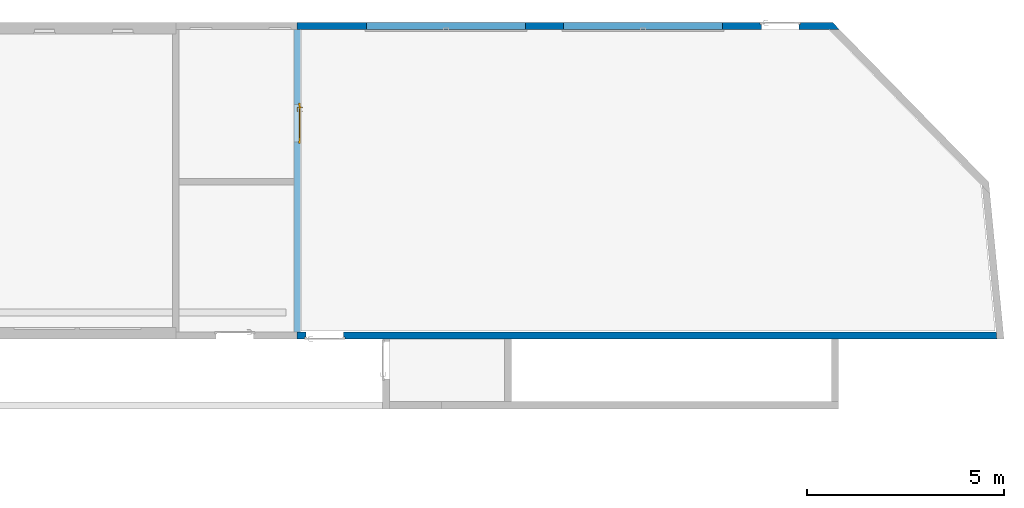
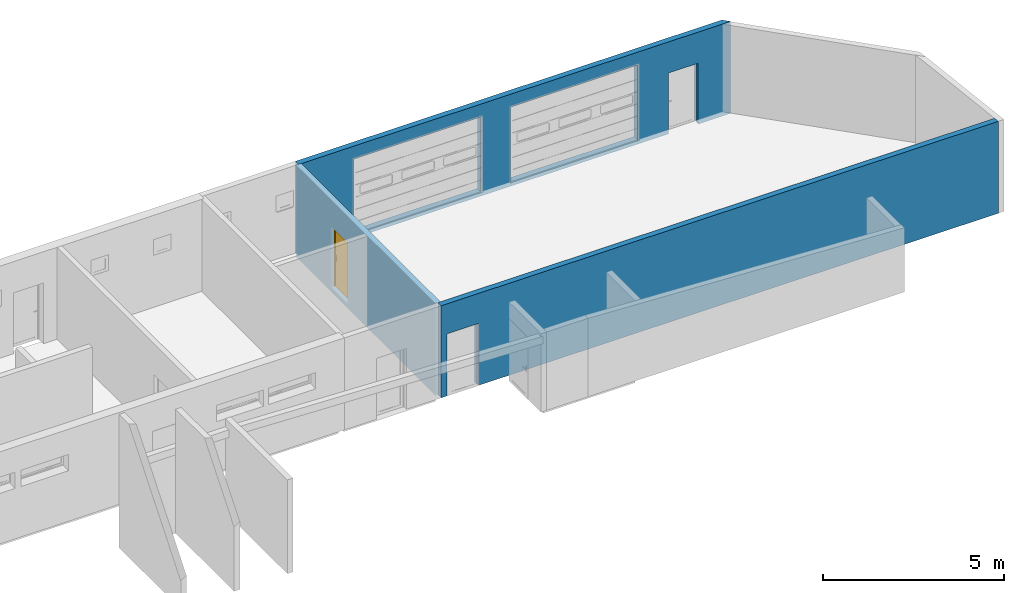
# One storey, part 7 of 9: 2 walls, 1 door, 1 opening, plus 1 element that does not belong to this part.
"""IFC2X3 building model written with IfcOpenShell, lengths in metres."""

from ifc_helpers import new_model, entity, si_unit, converted_unit, derived_unit, direction, frame, frame_2d, origin, place, context, subcontext, project, spatial, polyline, rectangle, extrude, clip, bounded_halfspace, faceted_brep, source, transform, mapped, material, layer, layer_set, layer_usage, type_object, type_shapes, element, fill, save


model = new_model("IFC2X3")

# Units and contexts
model_context = context("Model", 3, precision=1e-05, world=origin(), true_north=direction((6.12303176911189e-17, 1.0)))
body_context = subcontext(model_context, "Body", "Model", "MODEL_VIEW")
ifc_project = project(units=[si_unit("LENGTHUNIT", "METRE"), si_unit("AREAUNIT", "SQUARE_METRE"), si_unit("VOLUMEUNIT", "CUBIC_METRE"), converted_unit("PLANEANGLEUNIT", "DEGREE", entity("IfcRatioMeasure", 0.0174532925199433), si_unit("PLANEANGLEUNIT", "RADIAN"), dimensions=[0, 0, 0, 0, 0, 0, 0]), si_unit("MASSUNIT", "GRAM", prefix="KILO"), derived_unit("MASSDENSITYUNIT", [(si_unit("MASSUNIT", "GRAM", prefix="KILO"), 1), (si_unit("LENGTHUNIT", "METRE"), -3)]), si_unit("TIMEUNIT", "SECOND"), si_unit("FREQUENCYUNIT", "HERTZ"), si_unit("THERMODYNAMICTEMPERATUREUNIT", "DEGREE_CELSIUS"), derived_unit("THERMALTRANSMITTANCEUNIT", [(si_unit("MASSUNIT", "GRAM", prefix="KILO"), 1), (si_unit("THERMODYNAMICTEMPERATUREUNIT", "KELVIN"), -1), (si_unit("TIMEUNIT", "SECOND"), -3)]), derived_unit("VOLUMETRICFLOWRATEUNIT", [(si_unit("LENGTHUNIT", "METRE"), 3), (si_unit("TIMEUNIT", "SECOND"), -1)]), si_unit("ELECTRICCURRENTUNIT", "AMPERE"), si_unit("ELECTRICVOLTAGEUNIT", "VOLT"), si_unit("POWERUNIT", "WATT"), si_unit("FORCEUNIT", "NEWTON", prefix="KILO"), si_unit("ILLUMINANCEUNIT", "LUX"), si_unit("LUMINOUSFLUXUNIT", "LUMEN"), si_unit("LUMINOUSINTENSITYUNIT", "CANDELA"), derived_unit("USERDEFINED", [(si_unit("MASSUNIT", "GRAM", prefix="KILO"), -1), (si_unit("LENGTHUNIT", "METRE"), -2), (si_unit("TIMEUNIT", "SECOND"), 3), (si_unit("LUMINOUSFLUXUNIT", "LUMEN"), 1)]), derived_unit("LINEARVELOCITYUNIT", [(si_unit("LENGTHUNIT", "METRE"), 1), (si_unit("TIMEUNIT", "SECOND"), -1)]), si_unit("PRESSUREUNIT", "PASCAL"), derived_unit("USERDEFINED", [(si_unit("LENGTHUNIT", "METRE"), -2), (si_unit("MASSUNIT", "GRAM", prefix="KILO"), 1), (si_unit("TIMEUNIT", "SECOND"), -2)])], contexts=[model_context])

# Site, building, storey
site_placement = place(None, origin())
site = spatial("IfcSite", under=ifc_project, at=site_placement, Name="Default", CompositionType="ELEMENT")
building_placement = place(site_placement, origin())
building = spatial("IfcBuilding", under=site, at=building_placement, CompositionType="ELEMENT")
storey_placement = place(building_placement, origin())
storey = spatial("IfcBuildingStorey", under=building, at=storey_placement, Name="Niveau 0", CompositionType="ELEMENT", Elevation=-1.94916083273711e-14)

# Walls
ifc_material_1 = material(Name="Maçonnerie - Voile BA")
wall_type_1 = type_object("IfcWallType", Name="Mur de base:Ext. Voile BA 18", PredefinedType="NOTDEFINED")
wall_1_placement = place(storey_placement, frame((6.36053863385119, 2.91911858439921, 0.0)))
element("IfcWall", 1, at=wall_1_placement, inside=storey, type_object=wall_type_1, material=ifc_material_1, Name="Mur de base:Ext. Voile BA 18", ObjectType="Mur de base:Ext. Voile BA 18", context=body_context, shape_type="Brep", body=[
    faceted_brep([(0.0, -0.0900000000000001, 3.10000000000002), (0.0, -0.0900000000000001, 0.0), (0.0800000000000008, -0.0900000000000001, 0.0), (11.785, -0.0900000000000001, 0.0), (11.785, -0.0900000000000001, 2.05000000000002), (12.735, -0.0900000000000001, 2.05000000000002), (12.735, -0.0900000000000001, 0.0), (13.5139204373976, -0.0900000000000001, 0.0), (13.7656595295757, -0.0900000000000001, 0.0), (13.7656595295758, -0.0900000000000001, 3.09252723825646), (13.7656595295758, -0.0900000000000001, 3.10000000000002), (6.23994695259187, -0.0900000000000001, 3.10000000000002), (0.0800000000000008, -0.0900000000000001, 3.10000000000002), (1.765, -0.0900000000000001, 2.66500000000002), (5.79499999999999, -0.0900000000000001, 2.66500000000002), (5.79499999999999, -0.0900000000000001, 0.15), (1.765, -0.0900000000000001, 0.15), (6.76500000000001, -0.0900000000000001, 2.66500000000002), (10.795, -0.0900000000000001, 2.66500000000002), (10.795, -0.0900000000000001, 0.15), (6.76500000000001, -0.0900000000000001, 0.15), (0.0, 0.0900000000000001, 0.0), (0.0, 0.0900000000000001, 3.10000000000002), (6.23994695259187, 0.0900000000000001, 3.10000000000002), (13.589669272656, 0.0900000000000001, 3.10000000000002), (13.589669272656, 0.0900000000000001, 0.0), (12.775, 0.0900000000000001, 0.0), (12.775, 0.0900000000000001, 2.09000000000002), (11.745, 0.0900000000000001, 2.09000000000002), (11.745, 0.0900000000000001, 0.0), (5.79499999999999, 0.0900000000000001, 2.66500000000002), (1.765, 0.0900000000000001, 2.66500000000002), (1.765, 0.0900000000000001, 0.15), (5.79499999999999, 0.0900000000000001, 0.15), (10.795, 0.0900000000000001, 2.66500000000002), (6.765, 0.0900000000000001, 2.66500000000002), (6.765, 0.0900000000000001, 0.15), (10.795, 0.0900000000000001, 0.15), (11.745, 0.0400000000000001, 0.0), (11.785, 0.0400000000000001, 0.0), (11.785, 0.0400000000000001, 2.05000000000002), (12.735, 0.0400000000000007, 2.05000000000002), (12.735, 0.0400000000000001, 0.0), (11.745, 0.0400000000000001, 2.09000000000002), (12.775, 0.0400000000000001, 2.09000000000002), (12.775, 0.0400000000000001, 0.0)], [[[0, 1, 2, 3, 4, 5, 6, 7, 8, 9, 10, 11, 12], [13, 14, 15, 16], [17, 18, 19, 20]], [[21, 22, 23, 24, 25, 26, 27, 28, 29], [30, 31, 32, 33], [34, 35, 36, 37]], [[1, 21, 29, 38, 39, 3, 2]], [[1, 0, 22, 21]], [[10, 9, 8, 25, 24]], [[30, 14, 13, 31]], [[32, 16, 15, 33]], [[16, 32, 31, 13]], [[33, 15, 14, 30]], [[34, 18, 17, 35]], [[36, 20, 19, 37]], [[35, 17, 20, 36]], [[18, 34, 37, 19]], [[40, 41, 5, 4]], [[39, 40, 4, 3]], [[41, 42, 6, 5]], [[28, 43, 38, 29]], [[41, 40, 39, 38, 43, 44, 45, 42]], [[43, 28, 27, 44]], [[45, 44, 27, 26]], [[10, 24, 23, 11]], [[0, 12, 11, 23, 22]], [[25, 8, 7, 6, 42, 45, 26]]]),
])
wall_2_placement = place(storey_placement, frame((24.1232981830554, -4.9408814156, 0.0), z_axis=(0.0, 0.0, 1.0), x_axis=(-1.0, 0.0, 0.0)))
element("IfcWall", 2, at=wall_2_placement, inside=storey, type_object=wall_type_1, Name="Mur de base:Ext. Voile BA 18", ObjectType="Mur de base:Ext. Voile BA 18", context=body_context, shape_type="Brep", body=[
    faceted_brep([(17.7627595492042, -0.0899999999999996, 0.0), (17.7627595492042, -0.0899999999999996, 3.10000000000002), (17.6827595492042, -0.089999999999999, 3.10000000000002), (11.5228125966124, -0.0899999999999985, 3.10000000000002), (0.0175174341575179, -0.0899999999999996, 3.10000000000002), (0.0175174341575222, -0.0899999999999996, 0.0), (16.5877595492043, -0.089999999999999, 0.0), (16.5877595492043, -0.089999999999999, 2.05000000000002), (17.5377595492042, -0.0899999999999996, 2.05000000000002), (17.5377595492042, -0.0899999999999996, 0.0), (17.6827595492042, -0.089999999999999, 0.0), (17.7627595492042, 0.0900000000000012, 3.10000000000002), (17.7627595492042, 0.0900000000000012, 0.0), (17.5777595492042, 0.0900000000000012, 0.0), (17.5777595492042, 0.0900000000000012, 2.09000000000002), (16.5477595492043, 0.0900000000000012, 2.09000000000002), (16.5477595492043, 0.0900000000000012, 0.0), (0.0, 0.0900000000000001, 0.0), (0.0, 0.0900000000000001, 3.09918100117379), (0.0, 0.0900000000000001, 3.10000000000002), (11.5228125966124, 0.0900000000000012, 3.10000000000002), (16.5477595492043, 0.0400000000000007, 0.0), (16.5877595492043, 0.0400000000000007, 0.0), (17.7627595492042, 0.0850000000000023, 3.10000000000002), (0.000486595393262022, 0.0850000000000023, 3.10000000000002), (16.5877595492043, 0.0400000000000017, 2.05000000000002), (17.5377595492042, 0.0400000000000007, 2.05000000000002), (17.5377595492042, 0.0400000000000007, 0.0), (17.5777595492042, 0.0400000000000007, 0.0), (17.5777595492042, 0.0400000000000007, 2.09000000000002), (16.5477595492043, 0.0400000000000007, 2.09000000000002), (11.5228125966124, 0.0850000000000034, 3.10000000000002)], [[[0, 1, 2, 3, 4, 5, 6, 7, 8, 9, 10]], [[11, 12, 13, 14, 15, 16, 17, 18, 19, 20]], [[5, 17, 16, 21, 22, 6]], [[1, 0, 12, 11, 23]], [[5, 4, 24, 19, 18, 17]], [[25, 26, 8, 7]], [[26, 27, 9, 8]], [[22, 25, 7, 6]], [[28, 29, 14, 13]], [[26, 25, 22, 21, 30, 29, 28, 27]], [[14, 29, 30, 15]], [[30, 21, 16, 15]], [[11, 20, 31, 23]], [[4, 3, 31, 24]], [[20, 19, 24, 31]], [[3, 2, 1, 23, 31]], [[12, 0, 10, 9, 27, 28, 13]]]),
])

# Wall, opening, door
ifc_layer = layer(ifc_material_1, 0.16)
ifc_layer_set = layer_set([ifc_layer], Name="Mur de base:Refend. Voile BA 16")
ifc_layer_usage = layer_usage(ifc_layer_set, "AXIS2", "NEGATIVE", 0.08)
wall_type_2 = type_object("IfcWallType", Name="Mur de base:Refend. Voile BA 16", PredefinedType="STANDARD", material=ifc_layer_set)
wall_3_placement = place(storey_placement, frame((6.36053863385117, -4.85088141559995, 0.0), z_axis=(0.0, 0.0, 1.0), x_axis=(0.0, 1.0, 0.0)))
wall_3 = element("IfcWallStandardCase", 3, at=wall_3_placement, inside=storey, type_object=wall_type_2, material=ifc_layer_usage, Name="Mur de base:Refend. Voile BA 16", ObjectType="Mur de base:Refend. Voile BA 16", context=body_context, shape_type="Clipping", body=[
    clip(extrude(rectangle(XDim=7.67999999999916, YDim=0.16, at=frame_2d((3.83999999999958, 0.0), x_axis=(-1.0, 0.0))), origin(), (0.0, 0.0, 1.0), 3.10000000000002), bounded_halfspace(frame((0.0, -0.0800000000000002, 3.10000000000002), z_axis=(0.0, 0.0, -1.0), x_axis=(0.0, -1.0, 0.0)), True, frame((0.0, -0.0800000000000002, 3.10000000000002)), polyline([(0.0, 0.0), (7.67999999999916, 0.0), (7.67999999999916, 0.0800000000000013), (7.67999999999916, 0.16), (3.89645382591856, 0.16), (3.73645382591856, 0.160000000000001), (0.0, 0.16), (0.0, 0.0800000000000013), (0.0, 0.0)]))),
])
opening_placement = place(wall_3_placement, frame((4.78145382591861, 0.380000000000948, 0.15), z_axis=(0.0, 0.0, 1.0), x_axis=(0.0, -1.0, 0.0)))
opening = element("IfcOpeningElement", 4, at=opening_placement, cuts=wall_3, Name="Mur de base:Refend. Voile BA 16", ObjectType="Opening", context=body_context, shape_type="Brep", body=[
    faceted_brep([(0.0, 0.98999999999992, 2.05000000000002), (0.0, 0.0400000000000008, 2.05000000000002), (0.410000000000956, 0.0400000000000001, 2.05000000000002), (0.410000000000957, 0.989999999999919, 2.05000000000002), (0.0, 0.0400000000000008, 0.0), (0.0, 0.98999999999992, 0.0), (0.410000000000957, 0.989999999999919, 0.0), (0.410000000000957, 1.02999999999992, 0.0), (0.460000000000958, 1.02999999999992, 0.0), (0.460000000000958, 0.989999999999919, 0.0), (0.760000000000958, 0.989999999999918, 0.0), (0.760000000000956, 0.0399999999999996, 0.0), (0.460000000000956, 0.0399999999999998, 0.0), (0.460000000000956, 0.0, 0.0), (0.410000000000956, 0.0, 0.0), (0.410000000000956, 0.04, 0.0), (0.760000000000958, 0.989999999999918, 2.05000000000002), (0.760000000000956, 0.0399999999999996, 2.05000000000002), (0.460000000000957, 1.02999999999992, 2.09000000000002), (0.460000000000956, 0.0, 2.09000000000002), (0.460000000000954, 0.0400000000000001, 2.05000000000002), (0.460000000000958, 0.989999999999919, 2.05000000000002), (0.410000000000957, 1.02999999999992, 2.09000000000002), (0.410000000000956, 0.0, 2.09000000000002)], [[[0, 1, 2, 3]], [[4, 5, 6, 7, 8, 9, 10, 11, 12, 13, 14, 15]], [[1, 0, 5, 4]], [[5, 0, 3, 6]], [[16, 17, 11, 10]], [[1, 4, 15, 2]], [[9, 8, 18, 19, 13, 12, 20, 21]], [[8, 7, 22, 18]], [[7, 6, 3, 2, 15, 14, 23, 22]], [[19, 18, 22, 23]], [[13, 19, 23, 14]], [[11, 17, 20, 12]], [[16, 10, 9, 21]], [[17, 16, 21, 20]]]),
])
ifc_material_2 = material(Name="PVC - Blanc")
door_style = type_object("IfcDoorStyle", Name="0.93 x 2.04", ConstructionType="NOTDEFINED", OperationType="SINGLE_SWING_LEFT", ParameterTakesPrecedence=False, Sizeable=False, material=ifc_material_2)
shared_shape = source(origin(), body_context, "Body", "Brep", [
    faceted_brep([(0.927025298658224, -0.27258714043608, 1.00778044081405), (0.922974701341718, -0.27258714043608, 1.00778044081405), (0.918999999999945, -0.27258714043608, 1.00699999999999), (0.918999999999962, -0.27258714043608, 0.993000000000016), (0.922974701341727, -0.27258714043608, 0.992219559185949), (0.927025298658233, -0.27258714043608, 0.992219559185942), (0.930999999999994, -0.27258714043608, 0.992999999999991), (0.93099999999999, -0.27258714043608, 1.00699999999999), (0.918999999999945, -0.250101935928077, 1.00699999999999), (0.918999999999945, -0.25010193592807, 0.993000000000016), (0.922974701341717, -0.248455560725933, 1.00778044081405), (0.927025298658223, -0.246777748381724, 1.00778044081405), (0.910838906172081, -0.230591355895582, 1.00778044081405), (0.909161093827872, -0.234641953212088, 1.00778044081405), (0.825793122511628, -0.234641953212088, 1.00778044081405), (0.824115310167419, -0.230591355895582, 1.00778044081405), (0.81645104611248, -0.238255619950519, 1.00778044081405), (0.819315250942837, -0.241119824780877, 1.00778044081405), (0.93099999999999, -0.245131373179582, 1.00699999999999), (0.930999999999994, -0.24513137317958, 0.992999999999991), (0.927025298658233, -0.24677774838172, 0.992219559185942), (0.922974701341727, -0.248455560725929, 0.992219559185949), (0.909161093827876, -0.234641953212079, 0.992219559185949), (0.910838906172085, -0.230591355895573, 0.992219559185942), (0.824115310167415, -0.230591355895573, 0.992219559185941), (0.825793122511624, -0.234641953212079, 0.992219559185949), (0.819315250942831, -0.241119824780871, 0.992219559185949), (0.816451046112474, -0.238255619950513, 0.992219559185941), (0.907514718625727, -0.23861665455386, 1.00699999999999), (0.907514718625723, -0.238616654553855, 0.993000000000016), (0.912485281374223, -0.226616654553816, 1.00699999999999), (0.912485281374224, -0.226616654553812, 0.992999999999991), (0.86747710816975, -0.238616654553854, 1.00699999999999), (0.827439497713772, -0.23861665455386, 1.00699999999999), (0.827439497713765, -0.23861665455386, 0.993000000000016), (0.86747710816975, -0.238616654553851, 0.993000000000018), (0.867477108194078, -0.232462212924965, 1.00787811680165), (0.862399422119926, -0.226616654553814, 1.00699999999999), (0.822468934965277, -0.226616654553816, 1.00699999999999), (0.872554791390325, -0.226616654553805, 0.992999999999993), (0.822468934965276, -0.226616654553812, 0.992999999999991), (0.86747710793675, -0.232462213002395, 0.992121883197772), (0.813640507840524, -0.235445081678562, 1.00699999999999), (0.813640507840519, -0.235445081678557, 0.992999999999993), (0.822125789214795, -0.243930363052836, 0.993000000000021), (0.822125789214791, -0.243930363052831, 1.00699999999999)], [[[0, 1, 2, 3, 4, 5, 6, 7]], [[8, 9, 3, 2]], [[1, 10, 8, 2]], [[1, 0, 11, 12, 13, 10]], [[14, 15, 16, 17]], [[7, 18, 11, 0]], [[18, 7, 6, 19]], [[6, 5, 20, 19]], [[5, 4, 21, 22, 23, 20]], [[24, 25, 26, 27]], [[4, 3, 9, 21]], [[28, 29, 9, 8]], [[8, 10, 13, 28]], [[18, 30, 12, 11]], [[31, 30, 18, 19]], [[19, 20, 23, 31]], [[21, 9, 29, 22]], [[29, 28, 32, 33, 34, 35]], [[36, 32, 13]], [[37, 38, 15]], [[37, 12, 30]], [[36, 12, 37]], [[14, 32, 36]], [[36, 15, 14]], [[28, 13, 32]], [[32, 14, 33]], [[12, 36, 13]], [[15, 36, 37]], [[30, 31, 39, 40, 38, 37]], [[23, 41, 39]], [[24, 39, 41]], [[39, 31, 23]], [[39, 24, 40]], [[22, 35, 41]], [[41, 23, 22]], [[41, 35, 25]], [[35, 22, 29]], [[34, 25, 35]], [[24, 41, 25]], [[17, 16, 42, 43, 27, 26, 44, 45]], [[45, 44, 34, 33]], [[33, 14, 17, 45]], [[15, 38, 42, 16]], [[43, 42, 38, 40]], [[24, 27, 43, 40]], [[34, 44, 26, 25]]]),
    faceted_brep([(0.922974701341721, -0.32258714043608, 1.00778044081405), (0.927025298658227, -0.32258714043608, 1.00778044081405), (0.930999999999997, -0.32258714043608, 1.00699999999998), (0.931000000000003, -0.32258714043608, 0.992999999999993), (0.927025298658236, -0.32258714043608, 0.992219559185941), (0.922974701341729, -0.32258714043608, 0.992219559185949), (0.918999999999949, -0.32258714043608, 0.993000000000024), (0.918999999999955, -0.32258714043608, 1.00699999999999), (0.927025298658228, -0.348591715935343, 1.00778044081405), (0.930999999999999, -0.350238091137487, 1.00699999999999), (0.922974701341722, -0.346913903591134, 1.00778044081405), (0.909298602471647, -0.360590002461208, 1.00778044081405), (0.910976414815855, -0.364640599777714, 1.00778044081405), (0.824142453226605, -0.364640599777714, 1.00778044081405), (0.825820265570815, -0.360590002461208, 1.00778044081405), (0.819342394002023, -0.354112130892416, 1.00778044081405), (0.816478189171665, -0.356976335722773, 1.00778044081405), (0.918999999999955, -0.345267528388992, 1.00699999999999), (0.918999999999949, -0.34526752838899, 0.993000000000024), (0.922974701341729, -0.346913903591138, 0.992219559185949), (0.927025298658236, -0.348591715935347, 0.992219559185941), (0.910976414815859, -0.364640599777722, 0.992219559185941), (0.90929860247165, -0.360590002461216, 0.992219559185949), (0.825820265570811, -0.360590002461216, 0.992219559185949), (0.824142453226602, -0.364640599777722, 0.992219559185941), (0.81647818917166, -0.356976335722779, 0.992219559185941), (0.819342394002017, -0.354112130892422, 0.992219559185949), (0.931000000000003, -0.35023809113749, 0.992999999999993), (0.912622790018, -0.368615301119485, 1.00699999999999), (0.907652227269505, -0.356615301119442, 1.00699999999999), (0.907652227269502, -0.356615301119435, 0.993000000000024), (0.912622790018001, -0.36861530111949, 0.992999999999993), (0.86755943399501, -0.362769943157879, 1.00787811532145), (0.87269230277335, -0.368615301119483, 1.00699999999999), (0.822496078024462, -0.368615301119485, 1.00699999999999), (0.867559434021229, -0.356615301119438, 1.00699999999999), (0.827466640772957, -0.356615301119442, 1.00699999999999), (0.867559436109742, -0.356615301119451, 0.993000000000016), (0.82746664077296, -0.356615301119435, 0.993000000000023), (0.867559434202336, -0.362769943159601, 0.992121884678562), (0.862426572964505, -0.368615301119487, 0.992999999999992), (0.822496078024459, -0.36861530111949, 0.992999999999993), (0.822152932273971, -0.351301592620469, 0.993000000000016), (0.813667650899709, -0.359786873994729, 0.992999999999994), (0.813667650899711, -0.359786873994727, 1.00699999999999), (0.822152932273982, -0.351301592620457, 1.00699999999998)], [[[0, 1, 2, 3, 4, 5, 6, 7]], [[2, 1, 8, 9]], [[1, 0, 10, 11, 12, 8]], [[13, 14, 15, 16]], [[0, 7, 17, 10]], [[18, 17, 7, 6]], [[5, 19, 18, 6]], [[5, 4, 20, 21, 22, 19]], [[23, 24, 25, 26]], [[3, 27, 20, 4]], [[9, 27, 3, 2]], [[9, 8, 12, 28]], [[10, 17, 29, 11]], [[30, 29, 17, 18]], [[18, 19, 22, 30]], [[20, 27, 31, 21]], [[28, 31, 27, 9]], [[12, 32, 33]], [[13, 33, 32]], [[33, 28, 12]], [[33, 13, 34]], [[11, 35, 32]], [[32, 12, 11]], [[32, 35, 14]], [[35, 11, 29]], [[36, 14, 35]], [[13, 32, 14]], [[29, 30, 37, 38, 36, 35]], [[39, 37, 22]], [[40, 41, 24]], [[40, 21, 31]], [[39, 21, 40]], [[23, 37, 39]], [[39, 24, 23]], [[30, 22, 37]], [[37, 23, 38]], [[21, 39, 22]], [[24, 39, 40]], [[31, 28, 33, 34, 41, 40]], [[42, 26, 25, 43, 44, 16, 15, 45]], [[13, 16, 44, 34]], [[36, 45, 15, 14]], [[42, 45, 36, 38]], [[38, 23, 26, 42]], [[24, 41, 43, 25]], [[44, 43, 41, 34]]]),
    faceted_brep([(0.924999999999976, -0.27758714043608, 0.864641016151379), (0.935352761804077, -0.27758714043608, 0.866003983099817), (0.944999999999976, -0.27758714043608, 0.870000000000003), (0.944999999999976, -0.27758714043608, 1.08), (0.935352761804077, -0.27758714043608, 1.08399601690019), (0.924999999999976, -0.27758714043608, 1.08535898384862), (0.914647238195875, -0.27758714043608, 1.08399601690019), (0.904999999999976, -0.27758714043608, 1.08), (0.904999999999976, -0.27758714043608, 0.870000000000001), (0.914647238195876, -0.27758714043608, 0.866003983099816), (0.924999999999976, -0.27258714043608, 1.08535898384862), (0.935352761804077, -0.27258714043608, 1.08399601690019), (0.944999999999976, -0.27258714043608, 1.08), (0.944999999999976, -0.27258714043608, 0.870000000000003), (0.935352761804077, -0.27258714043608, 0.866003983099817), (0.924999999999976, -0.27258714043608, 0.864641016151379), (0.914647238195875, -0.27258714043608, 0.866003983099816), (0.904999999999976, -0.27258714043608, 0.870000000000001), (0.904999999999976, -0.27258714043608, 1.08), (0.914647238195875, -0.27258714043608, 1.08399601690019)], [[[0, 1, 2, 3, 4, 5, 6, 7, 8, 9]], [[10, 11, 12, 13, 14, 15, 16, 17, 18, 19]], [[6, 19, 18, 7]], [[5, 10, 19, 6]], [[4, 11, 10, 5]], [[4, 3, 12, 11]], [[12, 3, 2, 13]], [[1, 14, 13, 2]], [[0, 15, 14, 1]], [[9, 16, 15, 0]], [[9, 8, 17, 16]], [[17, 8, 7, 18]]]),
    faceted_brep([(0.924999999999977, -0.32258714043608, 0.864641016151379), (0.935352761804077, -0.32258714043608, 0.866003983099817), (0.944999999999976, -0.32258714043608, 0.870000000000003), (0.944999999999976, -0.32258714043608, 1.08), (0.935352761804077, -0.32258714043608, 1.08399601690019), (0.924999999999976, -0.32258714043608, 1.08535898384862), (0.914647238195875, -0.32258714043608, 1.08399601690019), (0.904999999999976, -0.32258714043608, 1.08), (0.904999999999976, -0.32258714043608, 0.870000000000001), (0.914647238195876, -0.32258714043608, 0.866003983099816), (0.944999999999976, -0.31758714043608, 1.08), (0.944999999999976, -0.31758714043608, 0.870000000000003), (0.935352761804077, -0.31758714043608, 0.866003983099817), (0.924999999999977, -0.31758714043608, 0.864641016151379), (0.914647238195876, -0.31758714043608, 0.866003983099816), (0.904999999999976, -0.31758714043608, 0.870000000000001), (0.904999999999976, -0.31758714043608, 1.08), (0.914647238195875, -0.31758714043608, 1.08399601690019), (0.924999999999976, -0.31758714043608, 1.08535898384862), (0.935352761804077, -0.31758714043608, 1.08399601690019)], [[[0, 1, 2, 3, 4, 5, 6, 7, 8, 9]], [[10, 11, 12, 13, 14, 15, 16, 17, 18, 19]], [[1, 12, 11, 2]], [[0, 13, 12, 1]], [[9, 14, 13, 0]], [[9, 8, 15, 14]], [[15, 8, 7, 16]], [[6, 17, 16, 7]], [[5, 18, 17, 6]], [[4, 19, 18, 5]], [[4, 3, 10, 19]], [[10, 3, 2, 11]]]),
    faceted_brep([(1.02999999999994, -0.31758714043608, 0.0), (0.979999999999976, -0.31758714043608, 0.0), (0.979999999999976, -0.27758714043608, 0.0), (0.964999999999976, -0.27758714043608, 0.0), (0.964999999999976, -0.25758714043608, 0.0), (1.02999999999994, -0.25758714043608, 0.0), (1.02999999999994, -0.25758714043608, 2.09000000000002), (1.02999999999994, -0.31758714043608, 2.09000000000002), (0.964999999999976, -0.25758714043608, 2.02500000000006), (0.0649999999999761, -0.25758714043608, 2.02500000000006), (0.064999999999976, -0.25758714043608, 0.0), (0.0, -0.25758714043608, 0.0), (0.0, -0.25758714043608, 2.09000000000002), (0.964999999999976, -0.27758714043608, 2.02500000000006), (0.979999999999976, -0.27758714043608, 2.04000000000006), (0.0499999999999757, -0.27758714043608, 2.04000000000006), (0.0499999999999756, -0.27758714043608, 0.0), (0.064999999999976, -0.27758714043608, 0.0), (0.0649999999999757, -0.27758714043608, 2.02500000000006), (0.979999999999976, -0.31758714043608, 2.04000000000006), (0.0, -0.31758714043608, 2.09000000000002), (0.0, -0.31758714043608, 0.0), (0.0499999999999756, -0.31758714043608, 0.0), (0.0499999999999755, -0.31758714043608, 2.04000000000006)], [[[0, 1, 2, 3, 4, 5]], [[5, 6, 7, 0]], [[4, 8, 9, 10, 11, 12, 6, 5]], [[3, 13, 8, 4]], [[2, 14, 15, 16, 17, 18, 13, 3]], [[1, 19, 14, 2]], [[0, 7, 20, 21, 22, 23, 19, 1]], [[11, 21, 20, 12]], [[10, 17, 16, 22, 21, 11]], [[9, 18, 17, 10]], [[15, 23, 22, 16]], [[6, 12, 20, 7]], [[8, 13, 18, 9]], [[14, 19, 23, 15]]]),
    faceted_brep([(0.979999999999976, -0.31758714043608, 2.04000000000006), (0.0499999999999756, -0.31758714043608, 2.04000000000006), (0.0499999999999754, -0.31758714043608, 0.0), (0.979999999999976, -0.31758714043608, 0.0), (0.149999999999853, -0.31758714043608, 1.95000000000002), (0.879999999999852, -0.31758714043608, 1.95000000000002), (0.879999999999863, -0.31758714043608, 0.0999999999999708), (0.149999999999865, -0.31758714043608, 0.0999999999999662), (0.979999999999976, -0.27758714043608, 2.04000000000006), (0.979999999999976, -0.27758714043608, 0.0), (0.0499999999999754, -0.27758714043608, 0.0), (0.0499999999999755, -0.27758714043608, 2.04000000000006), (0.879999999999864, -0.27758714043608, 1.95000000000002), (0.149999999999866, -0.27758714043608, 1.95000000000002), (0.149999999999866, -0.27758714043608, 0.100000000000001), (0.879999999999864, -0.27758714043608, 0.100000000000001), (0.149999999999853, -0.30958714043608, 1.95000000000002), (0.149999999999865, -0.30958714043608, 0.0999999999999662), (0.879999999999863, -0.30958714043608, 0.0999999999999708), (0.879999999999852, -0.30958714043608, 1.95000000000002), (0.879999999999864, -0.28558714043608, 1.95000000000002), (0.879999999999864, -0.28558714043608, 0.100000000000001), (0.149999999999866, -0.28558714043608, 0.100000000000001), (0.149999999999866, -0.28558714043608, 1.95000000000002)], [[[0, 1, 2, 3], [4, 5, 6, 7]], [[8, 9, 10, 11], [12, 13, 14, 15]], [[3, 9, 8, 0]], [[2, 10, 9, 3]], [[1, 11, 10, 2]], [[0, 8, 11, 1]], [[16, 17, 18, 19]], [[16, 4, 7, 17]], [[17, 7, 6, 18]], [[18, 6, 5, 19]], [[19, 5, 4, 16]], [[20, 21, 22, 23]], [[20, 12, 15, 21]], [[21, 15, 14, 22]], [[22, 14, 13, 23]], [[23, 13, 12, 20]]]),
])
type_shapes(door_style, [shared_shape])
door_placement = place(opening_placement, frame((0.152412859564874, 0.0, 0.0), z_axis=(0.0, 0.0, 1.0), x_axis=(0.0, 1.0, 0.0)))
door = element("IfcDoor", 5, at=door_placement, inside=storey, type_object=door_style, material=ifc_material_2, Name="PVC Panneau Plein:0.93 x 2.04", ObjectType="0.93 x 2.04", OverallHeight=2.09000000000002, OverallWidth=1.02999999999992, context=body_context, shape_type="MappedRepresentation", body=[
    mapped(shared_shape, transform((0.0, 0.0, 0.0), scale=1.0)),
])
fill(opening, door)

save(model, "model.ifc")
